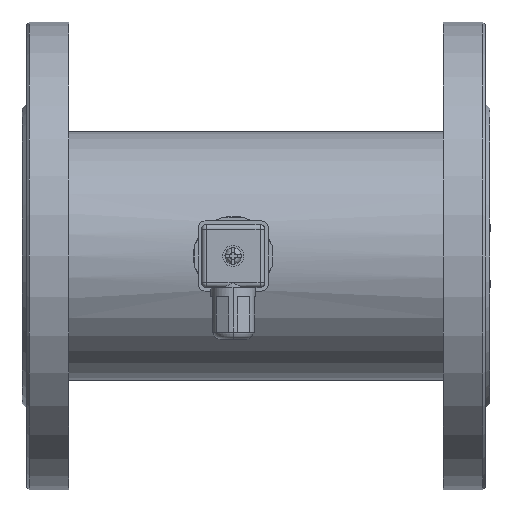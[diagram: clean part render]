
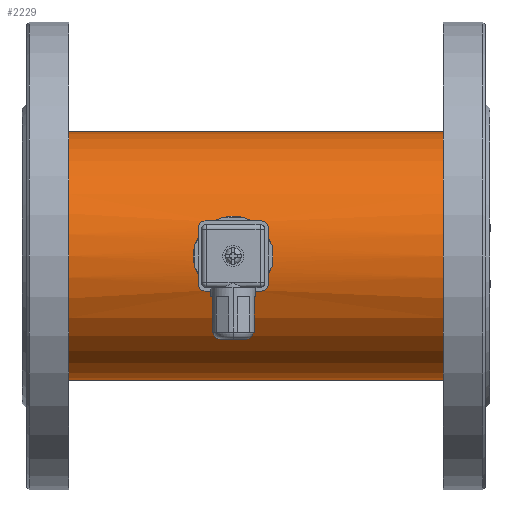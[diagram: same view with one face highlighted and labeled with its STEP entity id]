
A CAD part, left-side view. The second image highlights one B-rep face of the part: STEP entity #2229.
In plain terms, the highlighted cylindrical face has radius 53 mm (diameter 106 mm), a full revolution.
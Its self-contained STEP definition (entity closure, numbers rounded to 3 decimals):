
#492=B_SPLINE_CURVE_WITH_KNOTS('',3,(#10376,#10377,#10378,#10379,#10380,
#10381,#10382,#10383,#10384,#10385),.UNSPECIFIED.,.F.,.F.,(4,2,2,2,4),(0.,
0.25,0.5,0.75,1.),.UNSPECIFIED.);
#493=B_SPLINE_CURVE_WITH_KNOTS('',3,(#10389,#10390,#10391,#10392,#10393,
#10394,#10395,#10396,#10397,#10398),.UNSPECIFIED.,.F.,.F.,(4,2,2,2,4),(0.,
0.25,0.5,0.75,1.),.UNSPECIFIED.);
#634=LINE('',#10373,#1290);
#635=LINE('',#10387,#1291);
#1290=VECTOR('',#8403,1.);
#1291=VECTOR('',#8404,1.);
#2229=ADVANCED_FACE('',(#2766,#2767,#2768),#2642,.T.);
#2642=CYLINDRICAL_SURFACE('',#7668,53.);
#2766=FACE_BOUND('',#2926,.T.);
#2767=FACE_BOUND('',#2927,.T.);
#2768=FACE_BOUND('',#2928,.T.);
#2926=EDGE_LOOP('',(#3443));
#2927=EDGE_LOOP('',(#3444,#3445,#3446,#3447));
#2928=EDGE_LOOP('',(#3448));
#3443=ORIENTED_EDGE('',*,*,#6301,.F.);
#3444=ORIENTED_EDGE('',*,*,#6302,.F.);
#3445=ORIENTED_EDGE('',*,*,#6303,.T.);
#3446=ORIENTED_EDGE('',*,*,#6304,.F.);
#3447=ORIENTED_EDGE('',*,*,#6305,.T.);
#3448=ORIENTED_EDGE('',*,*,#6300,.F.);
#5575=VERTEX_POINT('',#10369);
#5576=VERTEX_POINT('',#10372);
#5577=VERTEX_POINT('',#10374);
#5578=VERTEX_POINT('',#10375);
#5579=VERTEX_POINT('',#10386);
#5580=VERTEX_POINT('',#10388);
#6300=EDGE_CURVE('',#5575,#5575,#7371,.T.);
#6301=EDGE_CURVE('',#5576,#5576,#7372,.T.);
#6302=EDGE_CURVE('',#5577,#5578,#634,.T.);
#6303=EDGE_CURVE('',#5577,#5579,#492,.T.);
#6304=EDGE_CURVE('',#5580,#5579,#635,.T.);
#6305=EDGE_CURVE('',#5580,#5578,#493,.T.);
#7371=CIRCLE('',#7665,53.);
#7372=CIRCLE('',#7667,53.);
#7665=AXIS2_PLACEMENT_3D('',#10368,#8397,#8398);
#7667=AXIS2_PLACEMENT_3D('',#10371,#8401,#8402);
#7668=AXIS2_PLACEMENT_3D('',#10399,#8405,#8406);
#8397=DIRECTION('',(0.,1.,0.));
#8398=DIRECTION('',(1.,0.,0.));
#8401=DIRECTION('',(0.,-1.,0.));
#8402=DIRECTION('',(1.,0.,0.));
#8403=DIRECTION('',(0.,-1.,0.));
#8404=DIRECTION('',(0.,1.,0.));
#8405=DIRECTION('',(0.,-1.,0.));
#8406=DIRECTION('',(1.,0.,0.));
#10368=CARTESIAN_POINT('',(0.,-13.6,0.));
#10369=CARTESIAN_POINT('',(53.,-13.6,0.));
#10371=CARTESIAN_POINT('',(0.,-173.6,0.));
#10372=CARTESIAN_POINT('',(53.,-173.6,0.));
#10373=CARTESIAN_POINT('',(-51.,-83.841,-14.422));
#10374=CARTESIAN_POINT('',(-51.,-77.981,-14.422));
#10375=CARTESIAN_POINT('',(-51.,-89.701,-14.422));
#10376=CARTESIAN_POINT('',(-51.,-77.981,-14.422));
#10377=CARTESIAN_POINT('',(-51.337,-75.143,-13.232));
#10378=CARTESIAN_POINT('',(-51.868,-72.738,-11.197));
#10379=CARTESIAN_POINT('',(-52.709,-69.403,-6.117));
#10380=CARTESIAN_POINT('',(-53.,-68.49,-3.092));
#10381=CARTESIAN_POINT('',(-53.,-68.489,3.081));
#10382=CARTESIAN_POINT('',(-52.708,-69.405,6.121));
#10383=CARTESIAN_POINT('',(-51.868,-72.734,11.194));
#10384=CARTESIAN_POINT('',(-51.337,-75.144,13.23));
#10385=CARTESIAN_POINT('',(-51.,-77.982,14.422));
#10386=CARTESIAN_POINT('',(-51.,-77.982,14.422));
#10387=CARTESIAN_POINT('',(-51.,-1000.,14.422));
#10388=CARTESIAN_POINT('',(-51.,-89.701,14.422));
#10389=CARTESIAN_POINT('',(-51.,-89.701,14.422));
#10390=CARTESIAN_POINT('',(-51.337,-92.539,13.229));
#10391=CARTESIAN_POINT('',(-51.868,-94.948,11.197));
#10392=CARTESIAN_POINT('',(-52.709,-98.282,6.117));
#10393=CARTESIAN_POINT('',(-53.,-99.192,3.091));
#10394=CARTESIAN_POINT('',(-53.,-99.196,-3.083));
#10395=CARTESIAN_POINT('',(-52.708,-98.278,-6.122));
#10396=CARTESIAN_POINT('',(-51.868,-94.949,-11.196));
#10397=CARTESIAN_POINT('',(-51.337,-92.539,-13.23));
#10398=CARTESIAN_POINT('',(-51.,-89.701,-14.422));
#10399=CARTESIAN_POINT('',(0.,-1000.,0.));
